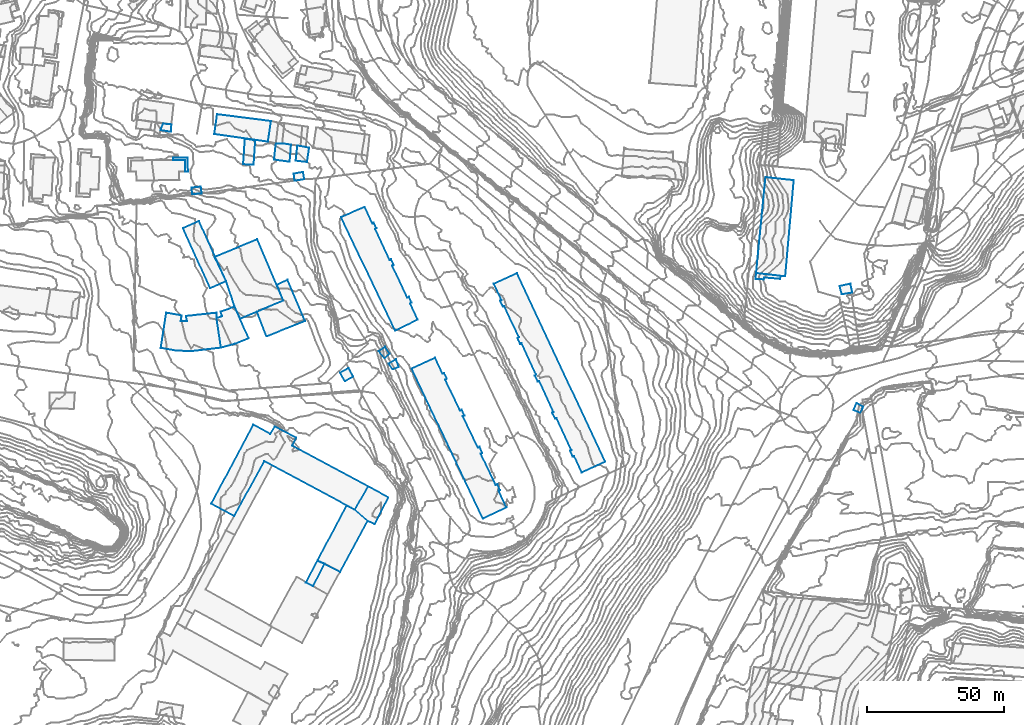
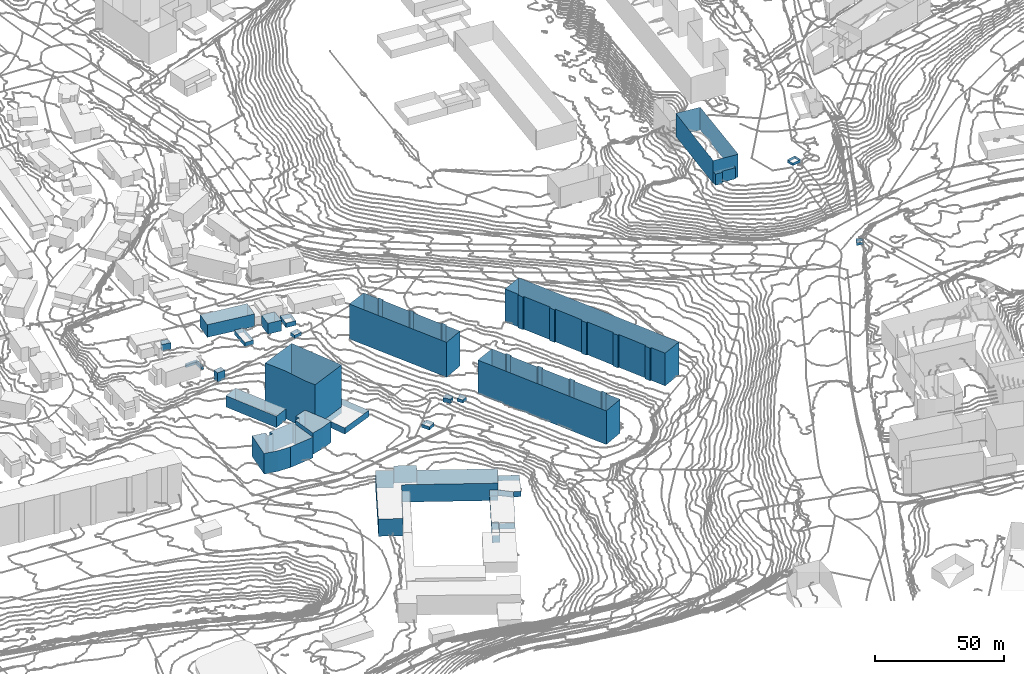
# Not in any storey, part 49 of 419: 27 walls.
"""IFC2X3 model written with IfcOpenShell, lengths in metres."""

from ifc_helpers import new_model, si_unit, frame, origin_with_axes, place, context, subcontext, project, faceted_brep, element, save


model = new_model("IFC2X3")

# Units and contexts
model_context = context("Model", 3, precision=1e-05, world=origin_with_axes())
body_context = subcontext(model_context, "Body", "Model", "MODEL_VIEW")
ifc_project = project(units=[si_unit("AREAUNIT", "SQUARE_METRE"), si_unit("LENGTHUNIT", "METRE")], contexts=[model_context])

# Walls
wall_1_placement = place(None, frame((591.4920204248, 640.8976909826, 49.4289993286), z_axis=(0.0, 0.0, 1.0), x_axis=(1.0, 0.0, 0.0)))
element("IfcWall", 1, at=wall_1_placement, Name="Mur 0", context=body_context, shape_type="Brep", body=[
    faceted_brep([(1.0, 7.2000000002, 5.9710006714), (20.6, 4.7000000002, 5.9710006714), (1.0, 7.2000000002, 0.0), (20.6, 4.7000000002, 0.0), (0.0, 0.0, 5.9710006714), (0.0, 0.0, 0.0), (19.5, -2.7999999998, 5.9710006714), (19.5, -2.7999999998, 0.0)], [[[0, 1, 2]], [[2, 1, 3]], [[4, 0, 5]], [[5, 0, 2]], [[1, 6, 3]], [[3, 6, 7]], [[6, 4, 7]], [[7, 4, 5]]]),
])
wall_2_placement = place(None, frame((580.0920204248, 606.6976909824, 41.2512004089), z_axis=(0.0, 0.0, 1.0), x_axis=(1.0, 0.0, 0.0)))
element("IfcWall", 2, at=wall_2_placement, Name="Mur 0", context=body_context, shape_type="Brep", body=[
    faceted_brep([(5.8, 2.6000000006, 5.3487995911), (15.7, -19.2999999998, 5.3487995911), (5.8, 2.6000000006, 0.0), (15.7, -19.2999999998, 0.0), (0.0, 0.0, 5.3487995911), (0.0, 0.0, 0.0), (9.9, -21.8999999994, 5.3487995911), (9.9, -21.8999999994, 0.0)], [[[0, 1, 2]], [[2, 1, 3]], [[4, 0, 5]], [[5, 0, 2]], [[1, 6, 3]], [[3, 6, 7]], [[6, 4, 7]], [[7, 4, 5]]]),
])
wall_3_placement = place(None, frame((628.9920204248, 485.6976909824, 39.5445994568), z_axis=(0.0, 0.0, 1.0), x_axis=(1.0, 0.0, 0.0)))
element("IfcWall", 3, at=wall_3_placement, Name="Mur 0", context=body_context, shape_type="Brep", body=[
    faceted_brep([(0.0, 0.0, 2.7554005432), (10.6, 20.0, 2.7554005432), (0.0, 0.0, 0.0), (10.6, 20.0, 0.0), (8.2, -4.0999999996, 2.7554005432), (8.2, -4.0999999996, 0.0), (18.2, 14.4000000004, 2.7554005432), (18.2, 14.4000000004, 0.0), (13.6, 18.5, 2.7554005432), (13.6, 18.5, 0.0)], [[[0, 1, 2]], [[2, 1, 3]], [[4, 0, 5]], [[5, 0, 2]], [[6, 4, 7]], [[7, 4, 5]], [[1, 8, 3]], [[3, 8, 9]], [[8, 6, 9]], [[9, 6, 7]]]),
])
wall_4_placement = place(None, frame((624.7920204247, 477.7976909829, 39.5445994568), z_axis=(0.0, 0.0, 1.0), x_axis=(1.0, 0.0, 0.0)))
element("IfcWall", 4, at=wall_4_placement, Name="Mur 0", context=body_context, shape_type="Brep", body=[
    faceted_brep([(0.0, 0.0, 3.3554005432), (4.2000000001, 7.8999999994, 3.3554005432), (0.0, 0.0, 0.0), (4.2000000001, 7.8999999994, 0.0), (2.6000000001, -1.4000000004, 3.3554005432), (2.6000000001, -1.4000000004, 0.0), (6.8, 6.7999999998, 3.3554005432), (6.8, 6.7999999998, 0.0)], [[[0, 1, 2]], [[2, 1, 3]], [[4, 0, 5]], [[5, 0, 2]], [[1, 6, 3]], [[3, 6, 7]], [[6, 4, 7]], [[7, 4, 5]]]),
])
wall_5_placement = place(None, frame((571.8920204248, 642.2976909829, 48.9172991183), z_axis=(0.0, 0.0, 1.0), x_axis=(1.0, 0.0, 0.0)))
element("IfcWall", 5, at=wall_5_placement, Name="Mur 0", context=body_context, shape_type="Brep", body=[
    faceted_brep([(0.8999999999, 2.3999999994, 3.0827008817), (4.0, 2.0999999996, 3.0827008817), (0.8999999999, 2.3999999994, 0.0), (4.0, 2.0999999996, 0.0), (0.0, 0.0, 3.0827008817), (0.0, 0.0, 0.0), (3.7999999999, -0.6000000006, 3.0827008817), (3.7999999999, -0.6000000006, 0.0)], [[[0, 1, 2]], [[2, 1, 3]], [[4, 0, 5]], [[5, 0, 2]], [[1, 6, 3]], [[3, 6, 7]], [[6, 4, 7]], [[7, 4, 5]]]),
])
wall_6_placement = place(None, frame((583.1920204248, 621.3976909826, 44.3322001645), z_axis=(0.0, 0.0, 1.0), x_axis=(1.0, 0.0, 0.0)))
element("IfcWall", 6, at=wall_6_placement, Name="Mur 0", context=body_context, shape_type="Brep", body=[
    faceted_brep([(3.4, 0.4000000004, 4.3677998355), (3.7000000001, -2.0999999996, 4.3677998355), (3.4, 0.4000000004, 0.0), (3.7000000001, -2.0999999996, 0.0), (0.0, 0.0, 4.3677998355), (0.0, 0.0, 0.0), (0.3, -2.4000000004, 4.3677998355), (0.3, -2.4000000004, 0.0)], [[[0, 1, 2]], [[2, 1, 3]], [[4, 0, 5]], [[5, 0, 2]], [[1, 6, 3]], [[3, 6, 7]], [[6, 4, 7]], [[7, 4, 5]]]),
])
wall_7_placement = place(None, frame((620.3920204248, 626.4976909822, 48.8734996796), z_axis=(0.0, 0.0, 1.0), x_axis=(1.0, 0.0, 0.0)))
element("IfcWall", 7, at=wall_7_placement, Name="Mur 0", context=body_context, shape_type="Brep", body=[
    faceted_brep([(3.3999999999, 0.6000000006, 1.6265003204), (3.7999999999, -2.0, 1.6265003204), (3.3999999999, 0.6000000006, 0.0), (3.7999999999, -2.0, 0.0), (0.0, 0.0, 1.6265003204), (0.0, 0.0, 0.0), (0.2999999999, -2.5999999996, 1.6265003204), (0.2999999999, -2.5999999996, 0.0)], [[[0, 1, 2]], [[2, 1, 3]], [[4, 0, 5]], [[5, 0, 2]], [[1, 6, 3]], [[3, 6, 7]], [[6, 4, 7]], [[7, 4, 5]]]),
])
wall_8_placement = place(None, frame((576.4920204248, 631.3976909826, 46.0819999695), z_axis=(0.0, 0.0, 1.0), x_axis=(1.0, 0.0, 0.0)))
element("IfcWall", 8, at=wall_8_placement, Name="Mur 0", context=body_context, shape_type="Brep", body=[
    faceted_brep([(5.4, -4.2000000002, 1.4180000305), (4.4, -4.2000000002, 1.4180000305), (5.4, -4.2000000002, 0.0), (4.4, -4.2000000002, 0.0), (5.2999999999, 1.0, 1.4180000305), (5.2999999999, 1.0, 0.0), (0.0, 0.9000000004, 1.4180000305), (0.0, 0.9000000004, 0.0), (0.0, 0.0, 1.4180000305), (0.0, 0.0, 0.0), (4.4, 0.0, 1.4180000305), (4.4, 0.0, 0.0)], [[[0, 1, 2]], [[2, 1, 3]], [[4, 0, 5]], [[5, 0, 2]], [[6, 4, 7]], [[7, 4, 5]], [[8, 6, 9]], [[9, 6, 7]], [[1, 10, 3]], [[3, 10, 11]], [[10, 8, 11]], [[11, 8, 9]]]),
])
wall_9_placement = place(None, frame((592.2920204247, 573.9976909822, 40.4176000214), z_axis=(0.0, 0.0, 1.0), x_axis=(1.0, 0.0, 0.0)))
element("IfcWall", 9, at=wall_9_placement, Name="Mur 0", context=body_context, shape_type="Brep", body=[
    faceted_brep([(1.6000000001, -10.7999999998, 10.0823999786), (0.0, 0.0, 10.0823999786), (1.6000000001, -10.7999999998, 0.0), (0.0, 0.0, 0.0), (6.8, -9.3999999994, 10.0823999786), (6.8, -9.3999999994, 0.0), (11.7000000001, -7.3999999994, 10.0823999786), (11.7000000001, -7.3999999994, 0.0), (6.6000000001, 4.1000000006, 10.0823999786), (6.6000000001, 4.1000000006, 0.0), (1.5, 2.3000000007, 10.0823999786), (1.5, 2.3000000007, 0.0), (2.1000000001, 0.6000000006, 10.0823999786), (2.1000000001, 0.6000000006, 0.0)], [[[0, 1, 2]], [[2, 1, 3]], [[4, 0, 5]], [[5, 0, 2]], [[6, 4, 7]], [[7, 4, 5]], [[8, 6, 9]], [[9, 6, 7]], [[10, 8, 11]], [[11, 8, 9]], [[1, 12, 3]], [[3, 12, 13]], [[12, 10, 13]], [[13, 10, 11]]]),
])
wall_10_placement = place(None, frame((571.9920204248, 563.0976909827, 38.7227992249), z_axis=(0.0, 0.0, 1.0), x_axis=(1.0, 0.0, 0.0)))
element("IfcWall", 10, at=wall_10_placement, Name="Mur 0", context=body_context, shape_type="Brep", body=[
    faceted_brep([(20.2999999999, 12.7999999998, 9.7772007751), (20.2999999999, 10.8999999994, 9.7772007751), (20.2999999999, 12.7999999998, 0.0), (20.2999999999, 10.8999999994, 0.0), (9.2, 11.5999999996, 9.7772007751), (9.2, 11.5999999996, 0.0), (9.6, 9.7999999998, 9.7772007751), (9.6, 9.7999999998, 0.0), (7.2999999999, 9.7000000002, 9.7772007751), (7.2999999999, 9.7000000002, 0.0), (7.6, 11.7999999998, 9.7772007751), (7.6, 11.7999999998, 0.0), (2.0, 12.7999999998, 9.7772007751), (2.0, 12.7999999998, 0.0), (0.0, 0.0, 9.7772007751), (0.0, 0.0, 0.0), (5.6, -1.0, 9.7772007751), (5.6, -1.0, 0.0), (11.1, -1.2000000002, 9.7772007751), (11.1, -1.2000000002, 0.0), (21.9, 0.0999999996, 9.7772007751), (21.9, 0.0999999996, 0.0)], [[[0, 1, 2]], [[2, 1, 3]], [[4, 0, 5]], [[5, 0, 2]], [[6, 4, 7]], [[7, 4, 5]], [[8, 6, 9]], [[9, 6, 7]], [[10, 8, 11]], [[11, 8, 9]], [[12, 10, 13]], [[13, 10, 11]], [[14, 12, 15]], [[15, 12, 13]], [[16, 14, 17]], [[17, 14, 15]], [[18, 16, 19]], [[19, 16, 17]], [[1, 20, 3]], [[3, 20, 21]], [[20, 18, 21]], [[21, 18, 19]]]),
])
wall_11_placement = place(None, frame((591.5920204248, 596.1976909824, 41.9024003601), z_axis=(0.0, 0.0, 1.0), x_axis=(1.0, 0.0, 0.0)))
element("IfcWall", 11, at=wall_11_placement, Name="Mur 0", context=body_context, shape_type="Brep", body=[
    faceted_brep([(9.4, -22.3999999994, 22.4975996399), (7.3, -18.0999999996, 22.4975996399), (9.4, -22.3999999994, 0.0), (7.3, -18.0999999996, 0.0), (25.0, -15.8999999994, 22.4975996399), (25.0, -15.8999999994, 0.0), (15.5, 6.4000000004, 22.4975996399), (15.5, 6.4000000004, 0.0), (0.0, 0.0, 22.4975996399), (0.0, 0.0, 0.0), (4.2, -8.7999999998, 22.4975996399), (4.2, -8.7999999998, 0.0)], [[[0, 1, 2]], [[2, 1, 3]], [[4, 0, 5]], [[5, 0, 2]], [[6, 4, 7]], [[7, 4, 5]], [[8, 6, 9]], [[9, 6, 7]], [[1, 10, 3]], [[3, 10, 11]], [[10, 8, 11]], [[11, 8, 9]]]),
])
wall_12_placement = place(None, frame((606.9920204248, 576.2976909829, 41.6300006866), z_axis=(0.0, 0.0, 1.0), x_axis=(1.0, 0.0, 0.0)))
element("IfcWall", 12, at=wall_12_placement, Name="Mur 0", context=body_context, shape_type="Brep", body=[
    faceted_brep([(3.5, -9.0, 2.9699993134), (0.0, 0.0, 2.9699993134), (3.5, -9.0, 0.0), (0.0, 0.0, 0.0), (17.5, -3.4000000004, 2.9699993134), (17.5, -3.4000000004, 0.0), (11.1, 11.5999999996, 2.9699993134), (11.1, 11.5999999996, 0.0), (7.2999999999, 9.7999999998, 2.9699993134), (7.2999999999, 9.7999999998, 0.0), (9.6, 4.0, 2.9699993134), (9.6, 4.0, 0.0)], [[[0, 1, 2]], [[2, 1, 3]], [[4, 0, 5]], [[5, 0, 2]], [[6, 4, 7]], [[7, 4, 5]], [[8, 6, 9]], [[9, 6, 7]], [[1, 10, 3]], [[3, 10, 11]], [[10, 8, 11]], [[11, 8, 9]]]),
])
wall_13_placement = place(None, frame((642.5920204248, 504.1976909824, 39.7652008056), z_axis=(0.0, 0.0, 1.0), x_axis=(1.0, 0.0, 0.0)))
element("IfcWall", 13, at=wall_13_placement, Name="Mur 0", context=body_context, shape_type="Brep", body=[
    faceted_brep([(4.6, -4.0999999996, 2.5347991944), (0.0, 0.0, 2.5347991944), (4.6, -4.0999999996, 0.0), (0.0, 0.0, 0.0), (7.3, -5.2000000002, 2.5347991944), (7.3, -5.2000000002, 0.0), (12.2, 4.5, 2.5347991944), (12.2, 4.5, 0.0), (4.8, 8.5, 2.5347991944), (4.8, 8.5, 0.0)], [[[0, 1, 2]], [[2, 1, 3]], [[4, 0, 5]], [[5, 0, 2]], [[6, 4, 7]], [[7, 4, 5]], [[1, 8, 3]], [[3, 8, 9]], [[8, 6, 9]], [[9, 6, 7]]]),
])
wall_14_placement = place(None, frame((788.5920204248, 590.2976909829, 83.8571990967), z_axis=(0.0, 0.0, 1.0), x_axis=(1.0, 0.0, 0.0)))
element("IfcWall", 14, at=wall_14_placement, Name="Mur 0", context=body_context, shape_type="Brep", body=[
    faceted_brep([(10.6, -1.0, 10.8428009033), (9.0, -1.0, 10.8428009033), (10.6, -1.0, 0.0), (9.0, -1.0, 0.0), (13.7, 33.7999999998, 10.8428009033), (13.7, 33.7999999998, 0.0), (3.4, 34.8999999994, 10.8428009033), (3.4, 34.8999999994, 0.0), (0.0, 0.0, 10.8428009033), (0.0, 0.0, 0.0)], [[[0, 1, 2]], [[2, 1, 3]], [[4, 0, 5]], [[5, 0, 2]], [[6, 4, 7]], [[7, 4, 5]], [[1, 8, 3]], [[3, 8, 9]], [[8, 6, 9]], [[9, 6, 7]]]),
])
wall_15_placement = place(None, frame((651.2920204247, 561.8976909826, 45.8280008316), z_axis=(0.0, 0.0, 1.0), x_axis=(1.0, 0.0, 0.0)))
element("IfcWall", 15, at=wall_15_placement, Name="Mur 0", context=body_context, shape_type="Brep", body=[
    faceted_brep([(0.0, 0.0, 2.0719991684), (2.3, 1.5999999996, 2.0719991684), (0.0, 0.0, 0.0), (2.3, 1.5999999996, 0.0), (2.1000000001, -2.5, 2.0719991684), (2.1000000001, -2.5, 0.0), (4.0, -0.9000000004, 2.0719991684), (4.0, -0.9000000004, 0.0)], [[[0, 1, 2]], [[2, 1, 3]], [[4, 0, 5]], [[5, 0, 2]], [[1, 6, 3]], [[3, 6, 7]], [[6, 4, 7]], [[7, 4, 5]]]),
])
wall_16_placement = place(None, frame((654.9920204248, 557.3976909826, 47.5459991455), z_axis=(0.0, 0.0, 1.0), x_axis=(1.0, 0.0, 0.0)))
element("IfcWall", 16, at=wall_16_placement, Name="Mur 0", context=body_context, shape_type="Brep", body=[
    faceted_brep([(1.4, -2.0999999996, 1.5540008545), (0.0, 0.0, 1.5540008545), (1.4, -2.0999999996, 0.0), (0.0, 0.0, 0.0), (3.6, -1.2000000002, 1.5540008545), (3.6, -1.2000000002, 0.0), (2.6, 1.5999999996, 1.5540008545), (2.6, 1.5999999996, 0.0)], [[[0, 1, 2]], [[2, 1, 3]], [[4, 0, 5]], [[5, 0, 2]], [[1, 6, 3]], [[3, 6, 7]], [[6, 4, 7]], [[7, 4, 5]]]),
])
wall_17_placement = place(None, frame((621.0920204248, 631.1976909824, 49.5080005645), z_axis=(0.0, 0.0, 1.0), x_axis=(1.0, 0.0, 0.0)))
element("IfcWall", 17, at=wall_17_placement, Name="Mur 0", context=body_context, shape_type="Brep", body=[
    faceted_brep([(0.6, 5.5, 2.1919994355), (1.8, 5.2999999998, 2.1919994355), (0.6, 5.5, 0.0), (1.8, 5.2999999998, 0.0), (0.0, 0.0, 2.1919994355), (0.0, 0.0, 0.0), (4.1, -0.5, 2.1919994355), (4.1, -0.5, 0.0), (4.9, 4.7000000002, 2.1919994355), (4.9, 4.7000000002, 0.0)], [[[0, 1, 2]], [[2, 1, 3]], [[4, 0, 5]], [[5, 0, 2]], [[6, 4, 7]], [[7, 4, 5]], [[1, 8, 3]], [[3, 8, 9]], [[8, 6, 9]], [[9, 6, 7]]]),
])
wall_18_placement = place(None, frame((637.2920204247, 554.0976909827, 43.4216000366), z_axis=(0.0, 0.0, 1.0), x_axis=(1.0, 0.0, 0.0)))
element("IfcWall", 18, at=wall_18_placement, Name="Mur 0", context=body_context, shape_type="Brep", body=[
    faceted_brep([(0.0, 0.0, 1.5783999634), (3.1000000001, 1.7000000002, 1.5783999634), (0.0, 0.0, 0.0), (3.1000000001, 1.7000000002, 0.0), (1.7000000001, -3.1000000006, 1.5783999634), (1.7000000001, -3.1000000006, 0.0), (4.7000000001, -1.5, 1.5783999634), (4.7000000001, -1.5, 0.0)], [[[0, 1, 2]], [[2, 1, 3]], [[4, 0, 5]], [[5, 0, 2]], [[1, 6, 3]], [[3, 6, 7]], [[6, 4, 7]], [[7, 4, 5]]]),
])
wall_19_placement = place(None, frame((590.3920204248, 506.3976909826, 37.3095994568), z_axis=(0.0, 0.0, 1.0), x_axis=(1.0, 0.0, 0.0)))
element("IfcWall", 19, at=wall_19_placement, Name="Mur 0", context=body_context, shape_type="Brep", body=[
    faceted_brep([(19.2999999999, 15.5, 8.1904005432), (8.2999999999, -4.5, 8.1904005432), (19.2999999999, 15.5, 0.0), (8.2999999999, -4.5, 0.0), (52.2, -2.2000000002, 8.1904005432), (52.2, -2.2000000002, 0.0), (57.0, 6.2999999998, 8.1904005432), (57.0, 6.2999999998, 0.0), (29.3999999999, 21.0999999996, 8.1904005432), (29.3999999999, 21.0999999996, 0.0), (30.8999999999, 24.0, 8.1904005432), (30.8999999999, 24.0, 0.0), (23.1, 28.0999999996, 8.1904005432), (23.1, 28.0999999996, 0.0), (21.3999999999, 25.4000000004, 8.1904005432), (21.3999999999, 25.4000000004, 0.0), (15.2999999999, 28.7999999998, 8.1904005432), (15.2999999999, 28.7999999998, 0.0), (0.0, 0.0, 8.1904005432), (0.0, 0.0, 0.0)], [[[0, 1, 2]], [[2, 1, 3]], [[4, 0, 5]], [[5, 0, 2]], [[6, 4, 7]], [[7, 4, 5]], [[8, 6, 9]], [[9, 6, 7]], [[10, 8, 11]], [[11, 8, 9]], [[12, 10, 13]], [[13, 10, 11]], [[14, 12, 15]], [[15, 12, 13]], [[16, 14, 17]], [[17, 14, 15]], [[1, 18, 3]], [[3, 18, 19]], [[18, 16, 19]], [[19, 16, 17]]]),
])
wall_20_placement = place(None, frame((601.9920204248, 629.8976909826, 48.0050003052), z_axis=(0.0, 0.0, 1.0), x_axis=(1.0, 0.0, 0.0)))
element("IfcWall", 20, at=wall_20_placement, Name="Mur 0", context=body_context, shape_type="Brep", body=[
    faceted_brep([(0.0, 0.0, 1.9949996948), (0.6, 9.2999999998, 1.9949996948), (0.0, 0.0, 0.0), (0.6, 9.2999999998, 0.0), (3.7999999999, -0.2000000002, 1.9949996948), (3.7999999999, -0.2000000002, 0.0), (4.4, 8.7000000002, 1.9949996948), (4.4, 8.7000000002, 0.0)], [[[0, 1, 2]], [[2, 1, 3]], [[4, 0, 5]], [[5, 0, 2]], [[1, 6, 3]], [[3, 6, 7]], [[6, 4, 7]], [[7, 4, 5]]]),
])
wall_21_placement = place(None, frame((788.3920204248, 588.1976909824, 84.2975994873), z_axis=(0.0, 0.0, 1.0), x_axis=(1.0, 0.0, 0.0)))
element("IfcWall", 21, at=wall_21_placement, Name="Mur 0", context=body_context, shape_type="Brep", body=[
    faceted_brep([(0.2, 2.1000000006, 5.3024005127), (9.2, 1.1000000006, 5.3024005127), (0.2, 2.1000000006, 0.0), (9.2, 1.1000000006, 0.0), (0.0, 0.0, 5.3024005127), (0.0, 0.0, 0.0), (3.0, -0.2000000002, 5.3024005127), (3.0, -0.2000000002, 0.0), (3.2, 0.5, 5.3024005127), (3.2, 0.5, 0.0), (8.8999999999, 0.0, 5.3024005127), (8.8999999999, 0.0, 0.0)], [[[0, 1, 2]], [[2, 1, 3]], [[4, 0, 5]], [[5, 0, 2]], [[6, 4, 7]], [[7, 4, 5]], [[8, 6, 9]], [[9, 6, 7]], [[1, 10, 3]], [[3, 10, 11]], [[10, 8, 11]], [[11, 8, 9]]]),
])
wall_22_placement = place(None, frame((823.9920204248, 540.4976909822, 72.4084002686), z_axis=(0.0, 0.0, 1.0), x_axis=(1.0, 0.0, 0.0)))
element("IfcWall", 22, at=wall_22_placement, Name="Mur 0", context=body_context, shape_type="Brep", body=[
    faceted_brep([(3.6, 1.2000000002, 1.2915997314), (3.2, 0.3000000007, 1.2915997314), (3.6, 1.2000000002, 0.0), (3.2, 0.3000000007, 0.0), (1.1, 2.5, 1.2915997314), (1.1, 2.5, 0.0), (0.0, 0.0, 1.2915997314), (0.0, 0.0, 0.0), (2.4, -1.0, 1.2915997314), (2.4, -1.0, 0.0)], [[[0, 1, 2]], [[2, 1, 3]], [[4, 0, 5]], [[5, 0, 2]], [[6, 4, 7]], [[7, 4, 5]], [[1, 8, 3]], [[3, 8, 9]], [[8, 6, 9]], [[9, 6, 7]]]),
])
wall_23_placement = place(None, frame((613.1920204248, 631.5976909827, 48.9920001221), z_axis=(0.0, 0.0, 1.0), x_axis=(1.0, 0.0, 0.0)))
element("IfcWall", 23, at=wall_23_placement, Name="Mur 0", context=body_context, shape_type="Brep", body=[
    faceted_brep([(0.7000000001, 5.8999999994, 5.1079998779), (3.0, 5.8999999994, 5.1079998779), (0.7000000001, 5.8999999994, 0.0), (3.0, 5.8999999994, 0.0), (0.0, 0.0, 5.1079998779), (0.0, 0.0, 0.0), (5.7000000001, -0.7999999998, 5.1079998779), (5.7000000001, -0.7999999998, 0.0), (6.2000000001, 5.3999999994, 5.1079998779), (6.2000000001, 5.3999999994, 0.0)], [[[0, 1, 2]], [[2, 1, 3]], [[4, 0, 5]], [[5, 0, 2]], [[6, 4, 7]], [[7, 4, 5]], [[1, 8, 3]], [[3, 8, 9]], [[8, 6, 9]], [[9, 6, 7]]]),
])
wall_24_placement = place(None, frame((663.2920204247, 555.5976909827, 49.3428007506), z_axis=(0.0, 0.0, 1.0), x_axis=(1.0, 0.0, 0.0)))
element("IfcWall", 24, at=wall_24_placement, Name="Mur 0", context=body_context, shape_type="Brep", body=[
    faceted_brep([(34.5, -50.5, 15.9571992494), (25.9, -54.6000000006, 15.9571992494), (34.5, -50.5, 0.0), (25.9, -54.6000000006, 0.0), (31.6000000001, -44.5, 15.9571992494), (31.6000000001, -44.5, 0.0), (32.2000000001, -44.2999999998, 15.9571992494), (32.2000000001, -44.2999999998, 0.0), (31.2000000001, -42.1000000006, 15.9571992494), (31.2000000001, -42.1000000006, 0.0), (30.6000000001, -42.4000000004, 15.9571992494), (30.6000000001, -42.4000000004, 0.0), (25.1000000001, -30.9000000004, 15.9571992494), (25.1000000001, -30.9000000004, 0.0), (25.7000000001, -30.7000000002, 15.9571992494), (25.7000000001, -30.7000000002, 0.0), (24.7000000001, -28.5, 15.9571992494), (24.7000000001, -28.5, 0.0), (24.1000000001, -28.7999999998, 15.9571992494), (24.1000000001, -28.7999999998, 0.0), (18.6000000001, -17.4000000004, 15.9571992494), (18.6000000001, -17.4000000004, 0.0), (19.2000000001, -17.1000000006, 15.9571992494), (19.2000000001, -17.1000000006, 0.0), (18.2000000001, -15.0, 15.9571992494), (18.2000000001, -15.0, 0.0), (17.6000000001, -15.2999999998, 15.9571992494), (17.6000000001, -15.2999999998, 0.0), (12.2000000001, -4.0, 15.9571992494), (12.2000000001, -4.0, 0.0), (12.8, -3.7000000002, 15.9571992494), (12.8, -3.7000000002, 0.0), (11.8, -1.6000000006, 15.9571992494), (11.8, -1.6000000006, 0.0), (11.2000000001, -1.7999999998, 15.9571992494), (11.2000000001, -1.7999999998, 0.0), (8.5, 3.8999999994, 15.9571992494), (8.5, 3.8999999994, 0.0), (0.0, 0.0, 15.9571992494), (0.0, 0.0, 0.0)], [[[0, 1, 2]], [[2, 1, 3]], [[4, 0, 5]], [[5, 0, 2]], [[6, 4, 7]], [[7, 4, 5]], [[8, 6, 9]], [[9, 6, 7]], [[10, 8, 11]], [[11, 8, 9]], [[12, 10, 13]], [[13, 10, 11]], [[14, 12, 15]], [[15, 12, 13]], [[16, 14, 17]], [[17, 14, 15]], [[18, 16, 19]], [[19, 16, 17]], [[20, 18, 21]], [[21, 18, 19]], [[22, 20, 23]], [[23, 20, 21]], [[24, 22, 25]], [[25, 22, 23]], [[26, 24, 27]], [[27, 24, 25]], [[28, 26, 29]], [[29, 26, 27]], [[30, 28, 31]], [[31, 28, 29]], [[32, 30, 33]], [[33, 30, 31]], [[34, 32, 35]], [[35, 32, 33]], [[36, 34, 37]], [[37, 34, 35]], [[1, 38, 3]], [[3, 38, 39]], [[38, 36, 39]], [[39, 36, 37]]]),
])
wall_25_placement = place(None, frame((637.5920204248, 610.6976909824, 50.8569999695), z_axis=(0.0, 0.0, 1.0), x_axis=(1.0, 0.0, 0.0)))
element("IfcWall", 25, at=wall_25_placement, Name="Mur 0", context=body_context, shape_type="Brep", body=[
    faceted_brep([(25.1, -31.3999999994, 16.5430000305), (27.9, -37.2999999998, 16.5430000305), (25.1, -31.3999999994, 0.0), (27.9, -37.2999999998, 0.0), (25.6, -31.0999999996, 16.5430000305), (25.6, -31.0999999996, 0.0), (24.7, -29.0, 16.5430000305), (24.7, -29.0, 0.0), (24.1, -29.2999999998, 16.5430000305), (24.1, -29.2999999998, 0.0), (18.6, -17.5999999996, 16.5430000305), (18.6, -17.5999999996, 0.0), (19.2, -17.3999999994, 16.5430000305), (19.2, -17.3999999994, 0.0), (18.2, -15.2999999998, 16.5430000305), (18.2, -15.2999999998, 0.0), (17.7, -15.5999999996, 16.5430000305), (17.7, -15.5999999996, 0.0), (12.4, -4.2999999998, 16.5430000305), (12.4, -4.2999999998, 0.0), (12.9, -4.0999999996, 16.5430000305), (12.9, -4.0999999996, 0.0), (11.9, -2.0, 16.5430000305), (11.9, -2.0, 0.0), (11.4, -2.2999999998, 16.5430000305), (11.4, -2.2999999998, 0.0), (8.6, 3.7000000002, 16.5430000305), (8.6, 3.7000000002, 0.0), (0.0, 0.0, 16.5430000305), (0.0, 0.0, 0.0), (19.7, -41.2999999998, 16.5430000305), (19.7, -41.2999999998, 0.0)], [[[0, 1, 2]], [[2, 1, 3]], [[4, 0, 5]], [[5, 0, 2]], [[6, 4, 7]], [[7, 4, 5]], [[8, 6, 9]], [[9, 6, 7]], [[10, 8, 11]], [[11, 8, 9]], [[12, 10, 13]], [[13, 10, 11]], [[14, 12, 15]], [[15, 12, 13]], [[16, 14, 17]], [[17, 14, 15]], [[18, 16, 19]], [[19, 16, 17]], [[20, 18, 21]], [[21, 18, 19]], [[22, 20, 23]], [[23, 20, 21]], [[24, 22, 25]], [[25, 22, 23]], [[26, 24, 27]], [[27, 24, 25]], [[28, 26, 29]], [[29, 26, 27]], [[1, 30, 3]], [[3, 30, 31]], [[30, 28, 31]], [[31, 28, 29]]]),
])
wall_26_placement = place(None, frame((693.1920204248, 586.3976909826, 54.3043986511), z_axis=(0.0, 0.0, 1.0), x_axis=(1.0, 0.0, 0.0)))
element("IfcWall", 26, at=wall_26_placement, Name="Mur 0", context=body_context, shape_type="Brep", body=[
    faceted_brep([(40.5, -64.7000000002, 15.4956013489), (32.0, -68.5999999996, 15.4956013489), (40.5, -64.7000000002, 0.0), (32.0, -68.5999999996, 0.0), (8.4, 3.9000000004, 15.4956013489), (8.4, 3.9000000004, 0.0), (0.0, 0.0, 15.4956013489), (0.0, 0.0, 0.0), (2.8, -5.9000000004, 15.4956013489), (2.8, -5.9000000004, 0.0), (2.3, -6.0999999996, 15.4956013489), (2.3, -6.0999999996, 0.0), (3.3, -8.2999999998, 15.4956013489), (3.3, -8.2999999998, 0.0), (3.8, -8.0999999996, 15.4956013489), (3.8, -8.0999999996, 0.0), (9.1, -19.4000000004, 15.4956013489), (9.1, -19.4000000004, 0.0), (8.6, -19.7000000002, 15.4956013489), (8.6, -19.7000000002, 0.0), (9.6, -21.9000000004, 15.4956013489), (9.6, -21.9000000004, 0.0), (10.1, -21.5999999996, 15.4956013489), (10.1, -21.5999999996, 0.0), (15.4, -33.0999999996, 15.4956013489), (15.4, -33.0999999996, 0.0), (14.9, -33.2999999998, 15.4956013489), (14.9, -33.2999999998, 0.0), (16.0, -35.5, 15.4956013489), (16.0, -35.5, 0.0), (16.5, -35.2999999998, 15.4956013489), (16.5, -35.2999999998, 0.0), (21.7000000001, -46.5999999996, 15.4956013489), (21.7000000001, -46.5999999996, 0.0), (21.2000000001, -46.7999999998, 15.4956013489), (21.2000000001, -46.7999999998, 0.0), (22.3, -49.0, 15.4956013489), (22.3, -49.0, 0.0), (22.8, -48.7999999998, 15.4956013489), (22.8, -48.7999999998, 0.0), (28.2000000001, -60.4000000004, 15.4956013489), (28.2000000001, -60.4000000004, 0.0), (27.7000000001, -60.5999999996, 15.4956013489), (27.7000000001, -60.5999999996, 0.0), (28.7000000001, -62.7999999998, 15.4956013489), (28.7000000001, -62.7999999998, 0.0), (29.2000000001, -62.5999999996, 15.4956013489), (29.2000000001, -62.5999999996, 0.0)], [[[0, 1, 2]], [[2, 1, 3]], [[4, 0, 5]], [[5, 0, 2]], [[6, 4, 7]], [[7, 4, 5]], [[8, 6, 9]], [[9, 6, 7]], [[10, 8, 11]], [[11, 8, 9]], [[12, 10, 13]], [[13, 10, 11]], [[14, 12, 15]], [[15, 12, 13]], [[16, 14, 17]], [[17, 14, 15]], [[18, 16, 19]], [[19, 16, 17]], [[20, 18, 21]], [[21, 18, 19]], [[22, 20, 23]], [[23, 20, 21]], [[24, 22, 25]], [[25, 22, 23]], [[26, 24, 27]], [[27, 24, 25]], [[28, 26, 29]], [[29, 26, 27]], [[30, 28, 31]], [[31, 28, 29]], [[32, 30, 33]], [[33, 30, 31]], [[34, 32, 35]], [[35, 32, 33]], [[36, 34, 37]], [[37, 34, 35]], [[38, 36, 39]], [[39, 36, 37]], [[40, 38, 41]], [[41, 38, 39]], [[42, 40, 43]], [[43, 40, 41]], [[44, 42, 45]], [[45, 42, 43]], [[1, 46, 3]], [[3, 46, 47]], [[46, 44, 47]], [[47, 44, 45]]]),
])
wall_27_placement = place(None, frame((818.9920204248, 585.5976909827, 85.9899993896), z_axis=(0.0, 0.0, 1.0), x_axis=(1.0, 0.0, 0.0)))
element("IfcWall", 27, at=wall_27_placement, Name="Mur 0", context=body_context, shape_type="Brep", body=[
    faceted_brep([(4.6, -2.4000000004, 1.3100006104), (3.2, -2.6000000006, 1.3100006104), (4.6, -2.4000000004, 0.0), (3.2, -2.6000000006, 0.0), (3.9, 0.8999999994, 1.3100006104), (3.9, 0.8999999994, 0.0), (0.0, 0.0, 1.3100006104), (0.0, 0.0, 0.0), (0.7999999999, -3.0, 1.3100006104), (0.7999999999, -3.0, 0.0)], [[[0, 1, 2]], [[2, 1, 3]], [[4, 0, 5]], [[5, 0, 2]], [[6, 4, 7]], [[7, 4, 5]], [[1, 8, 3]], [[3, 8, 9]], [[8, 6, 9]], [[9, 6, 7]]]),
])

save(model, "model.ifc")
